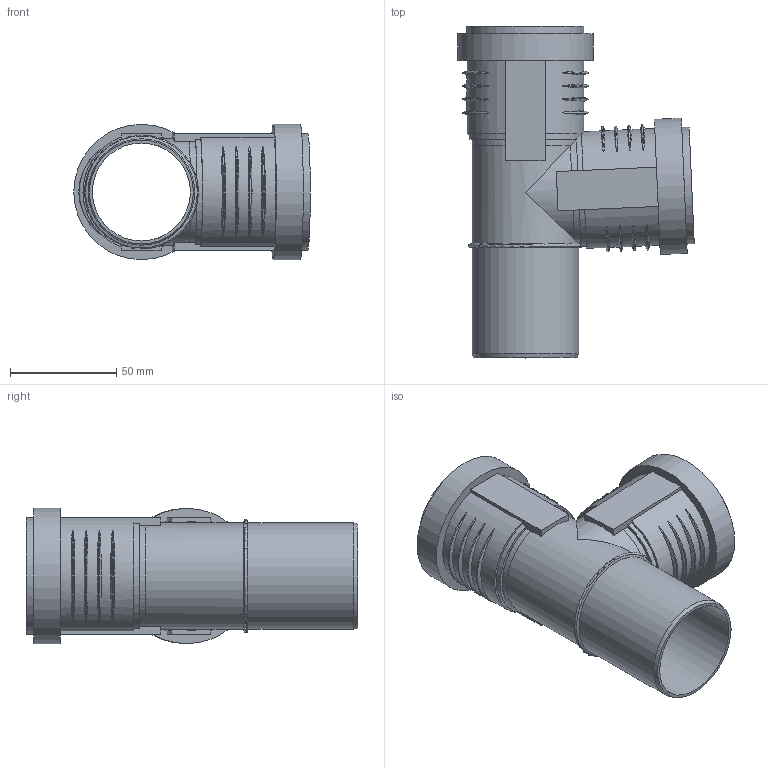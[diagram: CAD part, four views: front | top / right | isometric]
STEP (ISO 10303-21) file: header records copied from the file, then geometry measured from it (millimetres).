
FILE_DESCRIPTION(/* description */ (''),/* implementation_level */ '2;1');
FILE_NAME(/* name */ 'Z:\Geberit\Export\NewStep\390248.stp',/* time_stamp */ '2014-04-02T08:10:30+02:00',/* author */ ('ML'),/* organization */ (''),/* preprocessor_version */ 'ST-DEVELOPER v15.2',/* originating_system */ 'Autodesk Inventor 2014',/* authorisation */ '');
FILE_SCHEMA (('AUTOMOTIVE_DESIGN { 1 0 10303 214 3 1 1 }'));
Length unit declared in the file: millimetre
Products named in the file (4): 861352; 861401; 861401_1; 390248
Bounding box: 111.36 x 156.25 x 63.7 mm (x, y, z)
Volume: 80336.5 mm3; surface area: 81212.5 mm2
Topology: 3 solids, 3 shells, 127 faces, 319 edges, 222 vertices
Faces by surface type: torus 50, plane 37, cylinder 33, cone 7
Full cylindrical faces by diameter (mm): 46.15 x4, 50.15 x3, 51 x4, 55 x2, 59.7 x2, 63.7 x2
Entity records: 5033 total; most frequent: CARTESIAN_POINT 1991, ORIENTED_EDGE 570, DIRECTION 561, EDGE_CURVE 285, AXIS2_PLACEMENT_3D 244, VERTEX_POINT 213, EDGE_LOOP 184, ADVANCED_FACE 127
